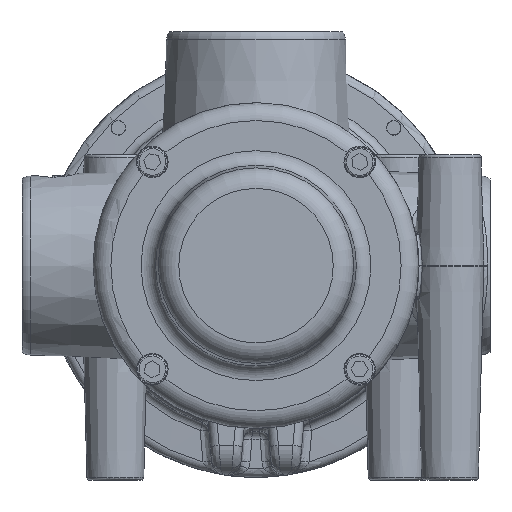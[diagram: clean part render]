
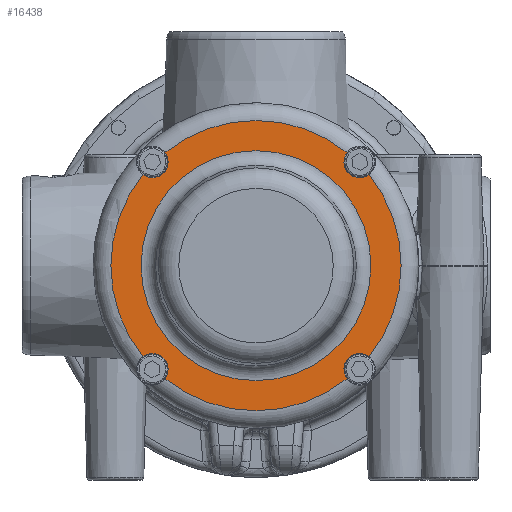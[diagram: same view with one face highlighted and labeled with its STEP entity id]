
A CAD part, front view. The second image highlights one B-rep face of the part: STEP entity #16438.
In plain terms, the highlighted planar face has unit normal (0, -1, 0).
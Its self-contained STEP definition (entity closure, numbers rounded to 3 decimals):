
#2959=FACE_BOUND('',#5339,.T.);
#4152=FACE_OUTER_BOUND('',#5338,.T.);
#5338=EDGE_LOOP('',(#13977,#13978,#13979,#13980,#13981,#13982,#13983,#13984));
#5339=EDGE_LOOP('',(#13985));
#6135=CIRCLE('',#18024,5.308);
#6136=CIRCLE('',#18025,49.);
#6137=CIRCLE('',#18026,5.308);
#6138=CIRCLE('',#18027,49.);
#6139=CIRCLE('',#18028,5.308);
#6140=CIRCLE('',#18029,49.);
#6141=CIRCLE('',#18030,5.308);
#6142=CIRCLE('',#18031,49.);
#6143=CIRCLE('',#18032,38.818);
#7567=VERTEX_POINT('',#36580);
#7568=VERTEX_POINT('',#36581);
#7569=VERTEX_POINT('',#36583);
#7570=VERTEX_POINT('',#36585);
#7571=VERTEX_POINT('',#36587);
#7572=VERTEX_POINT('',#36589);
#7573=VERTEX_POINT('',#36591);
#7574=VERTEX_POINT('',#36593);
#7575=VERTEX_POINT('',#36596);
#9729=EDGE_CURVE('',#7567,#7568,#6135,.T.);
#9730=EDGE_CURVE('',#7569,#7568,#6136,.T.);
#9731=EDGE_CURVE('',#7569,#7570,#6137,.T.);
#9732=EDGE_CURVE('',#7571,#7570,#6138,.T.);
#9733=EDGE_CURVE('',#7571,#7572,#6139,.T.);
#9734=EDGE_CURVE('',#7573,#7572,#6140,.T.);
#9735=EDGE_CURVE('',#7573,#7574,#6141,.T.);
#9736=EDGE_CURVE('',#7567,#7574,#6142,.T.);
#9737=EDGE_CURVE('',#7575,#7575,#6143,.T.);
#13977=ORIENTED_EDGE('',*,*,#9729,.T.);
#13978=ORIENTED_EDGE('',*,*,#9730,.F.);
#13979=ORIENTED_EDGE('',*,*,#9731,.T.);
#13980=ORIENTED_EDGE('',*,*,#9732,.F.);
#13981=ORIENTED_EDGE('',*,*,#9733,.T.);
#13982=ORIENTED_EDGE('',*,*,#9734,.F.);
#13983=ORIENTED_EDGE('',*,*,#9735,.T.);
#13984=ORIENTED_EDGE('',*,*,#9736,.F.);
#13985=ORIENTED_EDGE('',*,*,#9737,.T.);
#14527=PLANE('',#18023);
#16438=ADVANCED_FACE('',(#4152,#2959),#14527,.T.);
#18023=AXIS2_PLACEMENT_3D('',#36579,#22013,#22014);
#18024=AXIS2_PLACEMENT_3D('',#36582,#22015,#22016);
#18025=AXIS2_PLACEMENT_3D('',#36584,#22017,#22018);
#18026=AXIS2_PLACEMENT_3D('',#36586,#22019,#22020);
#18027=AXIS2_PLACEMENT_3D('',#36588,#22021,#22022);
#18028=AXIS2_PLACEMENT_3D('',#36590,#22023,#22024);
#18029=AXIS2_PLACEMENT_3D('',#36592,#22025,#22026);
#18030=AXIS2_PLACEMENT_3D('',#36594,#22027,#22028);
#18031=AXIS2_PLACEMENT_3D('',#36595,#22029,#22030);
#18032=AXIS2_PLACEMENT_3D('',#36597,#22031,#22032);
#22013=DIRECTION('center_axis',(0.,-1.,0.));
#22014=DIRECTION('ref_axis',(0.,0.,
-1.));
#22015=DIRECTION('center_axis',(0.,1.,0.));
#22016=DIRECTION('ref_axis',(-1.,0.,0.));
#22017=DIRECTION('center_axis',(0.,1.,0.));
#22018=DIRECTION('ref_axis',(-1.,0.,0.));
#22019=DIRECTION('center_axis',(0.,1.,0.));
#22020=DIRECTION('ref_axis',(-1.,0.,0.));
#22021=DIRECTION('center_axis',(0.,1.,0.));
#22022=DIRECTION('ref_axis',(-1.,0.,0.));
#22023=DIRECTION('center_axis',(0.,1.,0.));
#22024=DIRECTION('ref_axis',(-1.,0.,0.));
#22025=DIRECTION('center_axis',(0.,1.,0.));
#22026=DIRECTION('ref_axis',(-1.,0.,0.));
#22027=DIRECTION('center_axis',(0.,1.,0.));
#22028=DIRECTION('ref_axis',(-1.,0.,0.));
#22029=DIRECTION('center_axis',(0.,1.,0.));
#22030=DIRECTION('ref_axis',(-1.,0.,0.));
#22031=DIRECTION('center_axis',(0.,1.,0.));
#22032=DIRECTION('ref_axis',(-1.,0.,0.));
#36579=CARTESIAN_POINT('Origin',(-43.909,-7.,0.));
#36580=CARTESIAN_POINT('',(38.161,-7.,30.736));
#36581=CARTESIAN_POINT('',(30.736,-7.,38.161));
#36582=CARTESIAN_POINT('Origin',(35.,-7.,35.));
#36583=CARTESIAN_POINT('',(-30.736,-7.,38.161));
#36584=CARTESIAN_POINT('Origin',(0.,-7.,
0.));
#36585=CARTESIAN_POINT('',(-38.161,-7.,30.736));
#36586=CARTESIAN_POINT('Origin',(-35.,-7.,35.));
#36587=CARTESIAN_POINT('',(-38.161,-7.,-30.736));
#36588=CARTESIAN_POINT('Origin',(0.,-7.,
0.));
#36589=CARTESIAN_POINT('',(-30.736,-7.,-38.161));
#36590=CARTESIAN_POINT('Origin',(-35.,-7.,-35.));
#36591=CARTESIAN_POINT('',(30.736,-7.,-38.161));
#36592=CARTESIAN_POINT('Origin',(0.,-7.,
0.));
#36593=CARTESIAN_POINT('',(38.161,-7.,-30.736));
#36594=CARTESIAN_POINT('Origin',(35.,-7.,-35.));
#36595=CARTESIAN_POINT('Origin',(0.,-7.,
0.));
#36596=CARTESIAN_POINT('',(-38.818,-7.,0.));
#36597=CARTESIAN_POINT('Origin',(0.,-7.,
0.));
